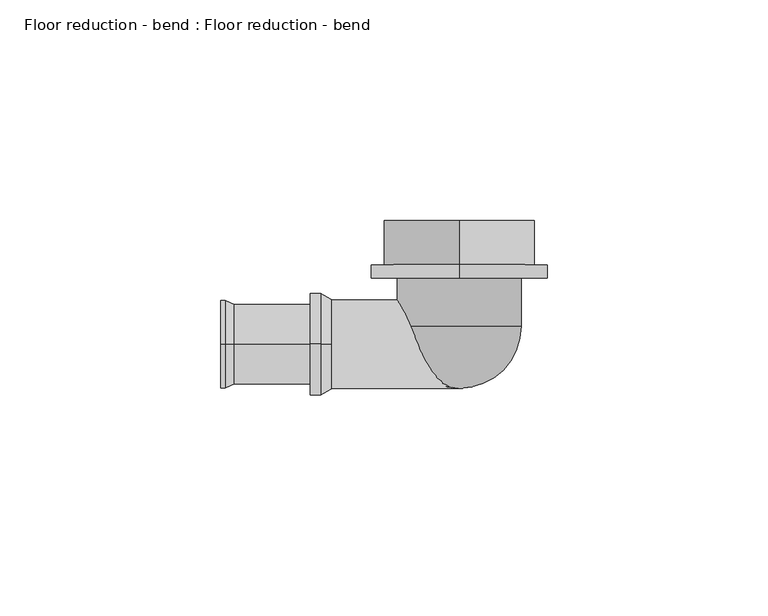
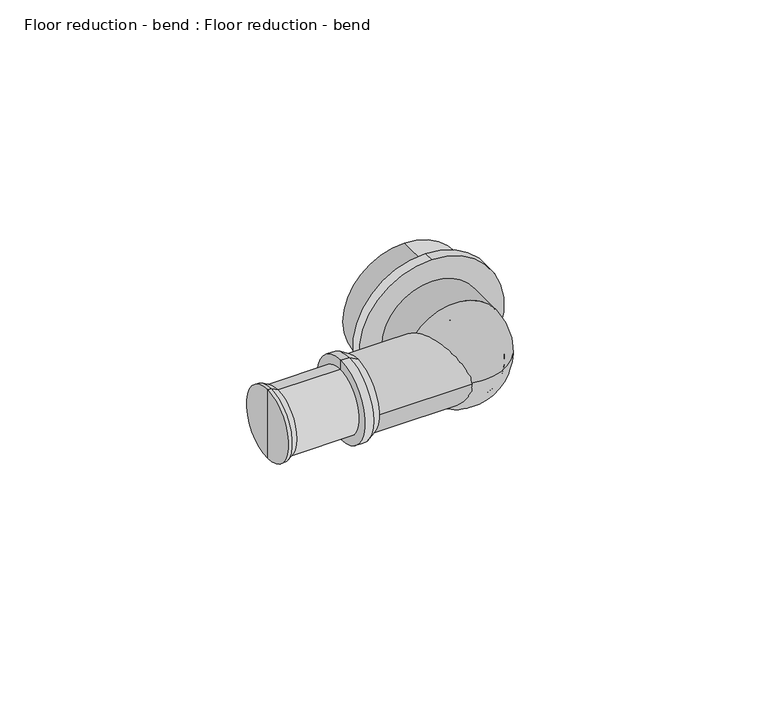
"""IFC4 building model written with IfcOpenShell, lengths in millimetres: pipe fitting geometry, Floor reduction - bend : Floor reduction - bend."""

from ifc_helpers import new_model, si_unit, point, frame, origin, origin_with_axes, place, context, project, spatial, polyline, circle_curve, ellipse_curve, trimmed, source, transform, mapped, element, save
from ifc_brep_helpers import plane_surface, cylinder_surface, revolved_surface, advanced_brep


def floor_reduction_bend_floor_reduction_bend_3b06b4d7(model_context):
    return source(origin(), model_context, "Body", "AdvancedBrep", [
        advanced_brep(
        [(-29.0, 0.0, 0.0), (-29.0, 0.0, 10.1432269), (-29.0, 0.0, -10.1432269), (-33.7, 0.0, -11.5), (-33.7, 0.0, 11.5), (-33.7, 0.0, 0.0), (-31.35, 0.0, -11.5), (-31.35, 0.0, 11.5)],
        [
            (0, 1),
            (1, 2, circle_curve(frame((-29.0, 0.0, 0.0), z_axis=(1.0, 0.0, 0.0), x_axis=(0.0, 0.0, 1.0)), 10.1432269)),
            (2, 0),
            (2, 1, circle_curve(frame((-29.0, 0.0, 0.0), z_axis=(1.0, 0.0, 0.0), x_axis=(0.0, 0.0, 1.0)), 10.1432269)),
            (3, 4, circle_curve(frame((-33.7, 0.0, 0.0), z_axis=(-1.0, 0.0, 0.0), x_axis=(0.0, 0.0, 1.0)), 11.5)),
            (4, 5),
            (5, 3),
            (4, 3, circle_curve(frame((-33.7, 0.0, 0.0), z_axis=(-1.0, 0.0, 0.0), x_axis=(0.0, 0.0, 1.0)), 11.5)),
            (6, 7, circle_curve(frame((-31.35, 0.0, 0.0), z_axis=(-1.0, 0.0, 0.0), x_axis=(0.0, 0.0, 1.0)), 11.5)),
            (7, 4),
            (3, 6),
            (7, 6, circle_curve(frame((-31.35, 0.0, 0.0), z_axis=(-1.0, 0.0, 0.0), x_axis=(0.0, 0.0, 1.0)), 11.5)),
            (1, 7),
            (6, 2),
        ],
        [
            plane_surface(frame((-29.0, 0.0, 0.0), z_axis=(1.0, 0.0, 0.0), x_axis=(0.0, 0.0, 1.0))),
            plane_surface(frame((-33.7, 0.0, 0.0), z_axis=(-1.0, 0.0, 0.0), x_axis=(0.0, 0.0, 1.0))),
            cylinder_surface(frame((-30.0, 0.0, 0.0), z_axis=(1.0, 0.0, 0.0), x_axis=(0.0, 0.0, 1.0)), 11.5),
            revolved_surface(polyline([(-31.35, 0.0, 11.5), (-29.0, 0.0, 10.1432269)]), (-30.0, 0.0, 0.0), (1.0, 0.0, 0.0)),
        ],
        [
            (0, [[1, 2, 3]]),
            (0, [[-3, 4, -1]]),
            (1, [[5, 6, 7]]),
            (1, [[8, -7, -6]]),
            (2, [[9, 10, -5, 11]]),
            (2, [[12, -11, -8, -10]]),
            (3, [[-2, 13, -9, 14]]),
            (3, [[-4, -14, -12, -13]]),
        ],
    ),
        advanced_brep(
        [(-33.7, 0.0, -9.0), (-33.7, 0.0, 9.0), (-51.0, 0.0, 9.0), (-51.0, 0.0, -9.0), (-54.0, 0.0, -10.0), (-54.0, 0.0, 10.0), (-54.0, 0.0, 0.0), (-33.7, 0.0, 0.0), (-53.0, 0.0, -10.0), (-53.0, 0.0, 10.0)],
        [
            (0, 1, circle_curve(frame((-33.7, 0.0, 0.0), z_axis=(-1.0, 0.0, 0.0), x_axis=(0.0, 0.0, 1.0)), 9.0)),
            (1, 2),
            (2, 3, circle_curve(frame((-51.0, 0.0, 0.0), z_axis=(1.0, 0.0, 0.0), x_axis=(0.0, 0.0, 1.0)), 9.0)),
            (3, 0),
            (1, 0, circle_curve(frame((-33.7, 0.0, 0.0), z_axis=(-1.0, 0.0, 0.0), x_axis=(0.0, 0.0, 1.0)), 9.0)),
            (3, 2, circle_curve(frame((-51.0, 0.0, 0.0), z_axis=(1.0, 0.0, 0.0), x_axis=(0.0, 0.0, 1.0)), 9.0)),
            (4, 5, circle_curve(frame((-54.0, 0.0, 0.0), z_axis=(-1.0, 0.0, 0.0), x_axis=(0.0, 0.0, 1.0)), 10.0)),
            (5, 6),
            (6, 4),
            (5, 4, circle_curve(frame((-54.0, 0.0, 0.0), z_axis=(-1.0, 0.0, 0.0), x_axis=(0.0, 0.0, 1.0)), 10.0)),
            (7, 1),
            (0, 7),
            (8, 9, circle_curve(frame((-53.0, 0.0, 0.0), z_axis=(-1.0, 0.0, 0.0), x_axis=(0.0, 0.0, 1.0)), 10.0)),
            (9, 5),
            (4, 8),
            (9, 8, circle_curve(frame((-53.0, 0.0, 0.0), z_axis=(-1.0, 0.0, 0.0), x_axis=(0.0, 0.0, 1.0)), 10.0)),
            (2, 9),
            (8, 3),
        ],
        [
            cylinder_surface(frame((1881.8038476, 0.0, 0.0), z_axis=(1.0, 0.0, 0.0), x_axis=(0.0, 0.0, 1.0)), 9.0),
            plane_surface(frame((-54.0, 0.0, 0.0), z_axis=(-1.0, 0.0, 0.0), x_axis=(0.0, 0.0, 1.0))),
            plane_surface(frame((-33.7, 0.0, 0.0), z_axis=(1.0, 0.0, 0.0), x_axis=(0.0, 0.0, 1.0))),
            cylinder_surface(frame((1881.8038476, 0.0, 0.0), z_axis=(1.0, 0.0, 0.0), x_axis=(0.0, 0.0, 1.0)), 10.0),
            revolved_surface(polyline([(-53.0, 0.0, 10.0), (-51.0, 0.0, 9.0)]), (1881.8038476, 0.0, 0.0), (1.0, 0.0, 0.0)),
        ],
        [
            (0, [[1, 2, 3, 4]]),
            (0, [[5, -4, 6, -2]]),
            (1, [[7, 8, 9]]),
            (1, [[10, -9, -8]]),
            (2, [[11, -1, 12]]),
            (2, [[-12, -5, -11]]),
            (3, [[13, 14, -7, 15]]),
            (3, [[16, -15, -10, -14]]),
            (4, [[-3, 17, -13, 18]]),
            (4, [[-6, -18, -16, -17]]),
        ],
    ),
        advanced_brep(
        [(0.0, 15.0, -20.0), (0.0, 15.0, 20.0), (0.0, 18.0, -20.0), (0.0, 18.0, 20.0), (0.0, 18.0, 17.0), (0.0, 18.0, -17.0), (0.0, 28.0, -17.0), (0.0, 28.0, 17.0)],
        [
            (0, 1, circle_curve(frame((0.0, 15.0, 0.0), z_axis=(0.0, -1.0, 0.0), x_axis=(0.0, 0.0, 1.0)), 20.0)),
            (1, 0, circle_curve(frame((0.0, 15.0, 0.0), z_axis=(0.0, -1.0, 0.0), x_axis=(0.0, 0.0, 1.0)), 20.0)),
            (2, 3, circle_curve(frame((0.0, 18.0, 0.0), z_axis=(0.0, 1.0, 0.0), x_axis=(0.0, 0.0, 1.0)), 20.0)),
            (3, 2, circle_curve(frame((0.0, 18.0, 0.0), z_axis=(0.0, 1.0, 0.0), x_axis=(0.0, 0.0, 1.0)), 20.0)),
            (4, 5, circle_curve(frame((0.0, 18.0, 0.0), z_axis=(0.0, -1.0, 0.0), x_axis=(0.0, 0.0, 1.0)), 17.0)),
            (5, 4, circle_curve(frame((0.0, 18.0, 0.0), z_axis=(0.0, -1.0, 0.0), x_axis=(0.0, 0.0, 1.0)), 17.0)),
            (1, 3),
            (2, 0),
            (6, 7, circle_curve(frame((0.0, 28.0, 0.0), z_axis=(0.0, 1.0, 0.0), x_axis=(0.0, 0.0, 1.0)), 17.0)),
            (7, 6, circle_curve(frame((0.0, 28.0, 0.0), z_axis=(0.0, 1.0, 0.0), x_axis=(0.0, 0.0, 1.0)), 17.0)),
            (6, 5),
            (4, 7),
        ],
        [
            plane_surface(frame((0.0, 15.0, 20.0), z_axis=(0.0, -1.0, 0.0), x_axis=(-1.0, 0.0, 0.0))),
            plane_surface(frame((0.0, 18.0, 20.0), z_axis=(0.0, 1.0, 0.0), x_axis=(1.0, 0.0, 0.0))),
            cylinder_surface(frame((0.0, 18.0, 0.0), z_axis=(0.0, -1.0, 0.0), x_axis=(0.0, 0.0, 1.0)), 20.0),
            plane_surface(frame((0.0, 28.0, 17.0), z_axis=(0.0, 1.0, 0.0), x_axis=(1.0, 0.0, 0.0))),
            cylinder_surface(frame((0.0, 18.0, 0.0), z_axis=(0.0, 1.0, 0.0), x_axis=(0.0, 0.0, 1.0)), 17.0),
        ],
        [
            (0, [[1, 2]]),
            (1, [[3, 4], [5, 6]]),
            (2, [[-2, 7, -3, 8]]),
            (2, [[-1, -8, -4, -7]]),
            (3, [[9, 10]]),
            (4, [[-9, 11, -5, 12]]),
            (4, [[-10, -12, -6, -11]]),
        ],
    ),
        advanced_brep(
        [(-14.0, 4.0, 0.0), (14.0, 4.0, 0.0), (0.0, -10.0, 0.0), (-14.0, 18.0, 0.0), (14.0, 18.0, 0.0), (0.0, 18.0, 0.0)],
        [
            (0, 1, circle_curve(frame((0.0, 4.0, 0.0), z_axis=(0.0, -1.0, 0.0), x_axis=(1.0, 0.0, 0.0)), 14.0)),
            (1, 2, circle_curve(frame((0.0, 4.0, 0.0), z_axis=(0.0, 0.0, -1.0), x_axis=(1.0, 0.0, 0.0)), 14.0)),
            (2, 0, circle_curve(frame((0.0, 4.0, 0.0), z_axis=(0.0, 0.0, -1.0), x_axis=(-1.0, 0.0, 0.0)), 14.0)),
            (1, 0, circle_curve(frame((0.0, 4.0, 0.0), z_axis=(0.0, -1.0, 0.0), x_axis=(1.0, 0.0, 0.0)), 14.0)),
            (3, 4, circle_curve(frame((0.0, 18.0, 0.0), z_axis=(0.0, -1.0, 0.0), x_axis=(1.0, 0.0, 0.0)), 14.0)),
            (4, 1),
            (0, 3),
            (4, 3, circle_curve(frame((0.0, 18.0, 0.0), z_axis=(0.0, -1.0, 0.0), x_axis=(1.0, 0.0, 0.0)), 14.0)),
            (5, 4),
            (3, 5),
        ],
        [
            revolved_surface(trimmed(ellipse_curve(frame((0.0, 4.0, 0.0), z_axis=(0.0, 0.0, 1.0), x_axis=(1.0, 0.0, 0.0)), 14.0, 14.0), [point((0.0, -10.0, 0.0))], [point((14.0, 4.0, 0.0))], True, "CARTESIAN"), (0.0, -1.0, 0.0), (0.0, 1.0, 0.0)),
            cylinder_surface(frame((0.0, -1.0, 0.0), z_axis=(0.0, 1.0, 0.0), x_axis=(1.0, 0.0, 0.0)), 14.0),
            plane_surface(frame((0.0, 18.0, 0.0), z_axis=(0.0, 1.0, 0.0), x_axis=(1.0, 0.0, 0.0))),
        ],
        [
            (0, [[1, 2, 3]]),
            (0, [[4, -3, -2]]),
            (1, [[5, 6, -1, 7]]),
            (1, [[8, -7, -4, -6]]),
            (2, [[9, -5, 10]]),
            (2, [[-10, -8, -9]]),
        ],
    ),
        advanced_brep(
        [(10.0, 0.0, 0.0), (0.0, -10.0, 0.0), (0.0, 10.0, 0.0), (-30.0, 10.0, 0.0), (-30.0, -10.0, 0.0), (-30.0, 0.0, 0.0)],
        [
            (0, 1, circle_curve(frame((0.0, 0.0, 0.0), z_axis=(0.0, 0.0, -1.0), x_axis=(1.0, 0.0, 0.0)), 10.0)),
            (1, 2, circle_curve(frame((0.0, 0.0, 0.0), z_axis=(1.0, 0.0, 0.0), x_axis=(0.0, -1.0, 0.0)), 10.0)),
            (2, 0, circle_curve(frame((0.0, 0.0, 0.0), z_axis=(0.0, 0.0, -1.0), x_axis=(1.0, 0.0, 0.0)), 10.0)),
            (2, 1, circle_curve(frame((0.0, 0.0, 0.0), z_axis=(1.0, 0.0, 0.0), x_axis=(0.0, -1.0, 0.0)), 10.0)),
            (3, 4, circle_curve(frame((-30.0, 0.0, 0.0), z_axis=(-1.0, 0.0, 0.0), x_axis=(0.0, -1.0, 0.0)), 10.0)),
            (4, 5),
            (5, 3),
            (4, 3, circle_curve(frame((-30.0, 0.0, 0.0), z_axis=(-1.0, 0.0, 0.0), x_axis=(0.0, -1.0, 0.0)), 10.0)),
            (1, 4),
            (3, 2),
        ],
        [
            revolved_surface(trimmed(ellipse_curve(origin_with_axes(), 10.0, 10.0), [point((0.0, -10.0, 0.0))], [point((10.0, 0.0, 0.0))], True, "CARTESIAN"), (-40.0, 0.0, 0.0), (1.0, 0.0, 0.0)),
            plane_surface(frame((-30.0, 0.0, 0.0), z_axis=(-1.0, 0.0, 0.0), x_axis=(0.0, -1.0, 0.0))),
            cylinder_surface(frame((-40.0, 0.0, 0.0), z_axis=(1.0, 0.0, 0.0), x_axis=(0.0, -1.0, 0.0)), 10.0),
        ],
        [
            (0, [[1, 2, 3]]),
            (0, [[-3, 4, -1]]),
            (1, [[5, 6, 7]]),
            (1, [[8, -7, -6]]),
            (2, [[-2, 9, -5, 10]]),
            (2, [[-4, -10, -8, -9]]),
        ],
    ),
    ])


if __name__ == "__main__":
    model = new_model("IFC4")
    model_context = context("Model", 3, world=origin())
    ifc_project = project(units=[si_unit("LENGTHUNIT", "METRE", prefix="MILLI")], contexts=[model_context])
    site = spatial("IfcSite", under=ifc_project)
    building = spatial("IfcBuilding", under=site)
    placement = place(None, origin())
    floor_reduction_bend_floor_reduction_bend_shape = floor_reduction_bend_floor_reduction_bend_3b06b4d7(model_context)
    element("IfcPipeFitting", 1, ObjectType="Floor reduction - bend : Floor reduction - bend", at=placement, inside=building, context=model_context, shape_type="MappedRepresentation", body=[
        mapped(floor_reduction_bend_floor_reduction_bend_shape, transform((0.0, 0.0, 0.0), x_axis=(1.0, 0.0, 0.0), y_axis=(0.0, 1.0, 0.0), z_axis=(0.0, 0.0, 1.0))),
    ])
    save(model, "model.ifc")
